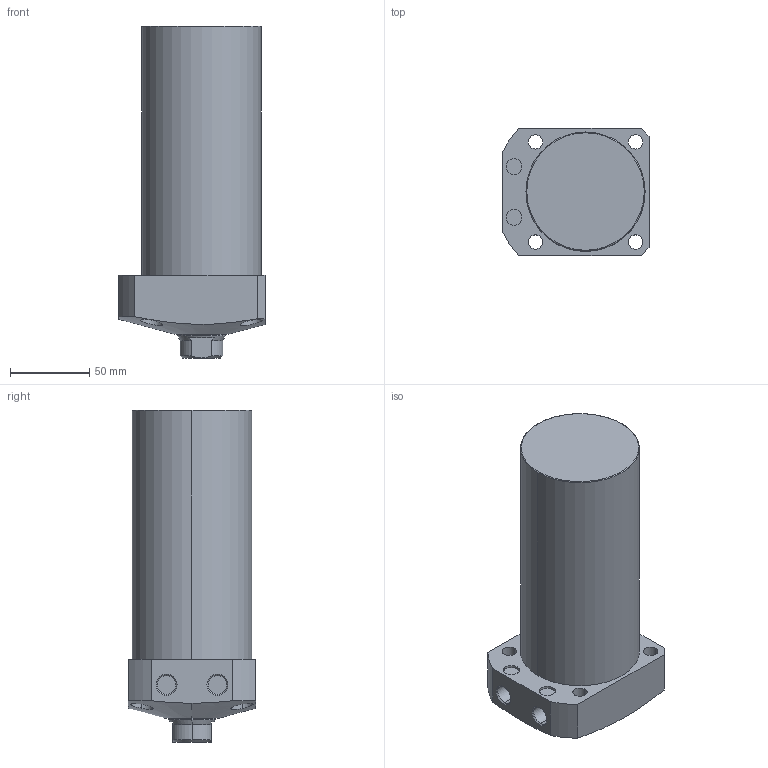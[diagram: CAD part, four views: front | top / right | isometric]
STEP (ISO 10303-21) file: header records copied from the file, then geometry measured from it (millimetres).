
FILE_DESCRIPTION (( 'STEP AP203' ), '1' );
FILE_NAME ('CLL-075CA-120.STEP', '2019-12-23T08:51:28', ( '' ), ( '' ), 'SwSTEP 2.0', 'SolidWorks 2015', '' );
FILE_SCHEMA (( 'CONFIG_CONTROL_DESIGN' ));
Length unit declared in the file: millimetre
Products named in the file (1): CLL-075CA-120
Bounding box: 92 x 80 x 209 mm (x, y, z)
Volume: 912662.7 mm3; surface area: 69326.6 mm2
Topology: 1 solids, 1 shells, 74 faces, 171 edges, 108 vertices
Faces by surface type: cylinder 35, plane 22, cone 15, torus 2
Entity records: 2610 total; most frequent: CARTESIAN_POINT 815, DIRECTION 376, ORIENTED_EDGE 338, EDGE_CURVE 169, AXIS2_PLACEMENT_3D 156, VERTEX_POINT 108, EDGE_LOOP 93, CIRCLE 81
